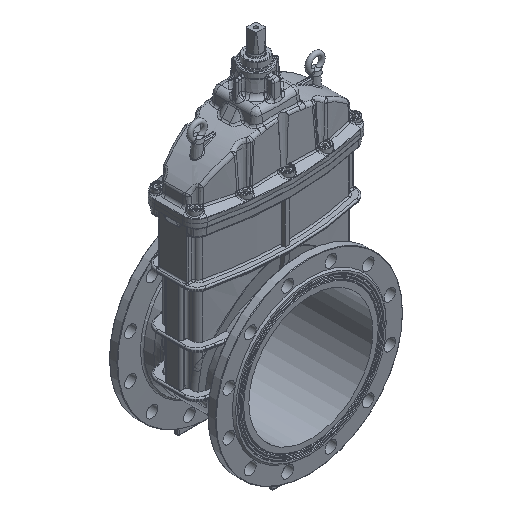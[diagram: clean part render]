
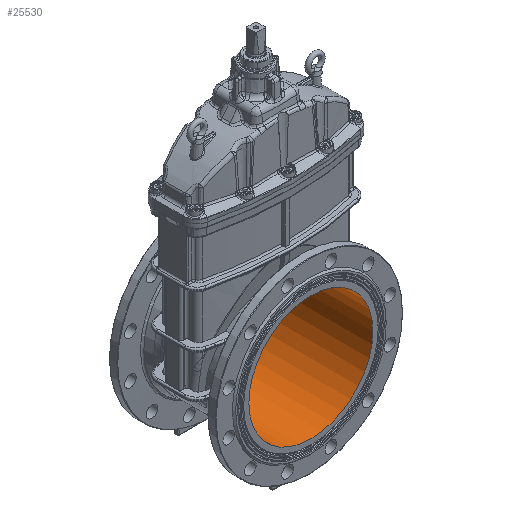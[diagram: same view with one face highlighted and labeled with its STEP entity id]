
A CAD part, isometric view. The second image highlights one B-rep face of the part: STEP entity #25530.
In plain terms, the highlighted cylindrical face has radius 152.5 mm (diameter 305 mm), a full revolution.
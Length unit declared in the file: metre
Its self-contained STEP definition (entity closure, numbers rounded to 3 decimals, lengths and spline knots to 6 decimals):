
#1006=CYLINDRICAL_SURFACE('',#28018,0.1525);
#2122=CIRCLE('',#27524,0.1525);
#2167=CIRCLE('',#27614,0.1525);
#3943=FACE_OUTER_BOUND('',#5700,.T.);
#5700=EDGE_LOOP('',(#18677,#18678,#18679,#18680));
#7619=LINE('',#48822,#8594);
#8594=VECTOR('',#32557,0.1525);
#10772=VERTEX_POINT('',#43161);
#10874=VERTEX_POINT('',#46317);
#13315=EDGE_CURVE('',#10772,#10772,#2122,.T.);
#13444=EDGE_CURVE('',#10874,#10874,#2167,.T.);
#13986=EDGE_CURVE('',#10874,#10772,#7619,.T.);
#18677=ORIENTED_EDGE('',*,*,#13444,.F.);
#18678=ORIENTED_EDGE('',*,*,#13986,.T.);
#18679=ORIENTED_EDGE('',*,*,#13315,.T.);
#18680=ORIENTED_EDGE('',*,*,#13986,.F.);
#25530=ADVANCED_FACE('',(#3943),#1006,.F.);
#27524=AXIS2_PLACEMENT_3D('',#43162,#31296,#31297);
#27614=AXIS2_PLACEMENT_3D('',#46318,#31509,#31510);
#28018=AXIS2_PLACEMENT_3D('',#48821,#32555,#32556);
#31296=DIRECTION('center_axis',(0.,0.,1.));
#31297=DIRECTION('ref_axis',(0.,-1.,0.));
#31509=DIRECTION('center_axis',(0.,0.,1.));
#31510=DIRECTION('ref_axis',(0.,-1.,0.));
#32555=DIRECTION('center_axis',(0.,0.,1.));
#32556=DIRECTION('ref_axis',(0.,-1.,0.));
#32557=DIRECTION('',(0.,0.,1.));
#43161=CARTESIAN_POINT('',(0.,0.1525,0.135));
#43162=CARTESIAN_POINT('Origin',(0.,0.,0.135));
#46317=CARTESIAN_POINT('',(0.,0.1525,-0.135));
#46318=CARTESIAN_POINT('Origin',(0.,0.,-0.135));
#48821=CARTESIAN_POINT('Origin',(0.,0.,0.));
#48822=CARTESIAN_POINT('',(0.,0.1525,0.));
